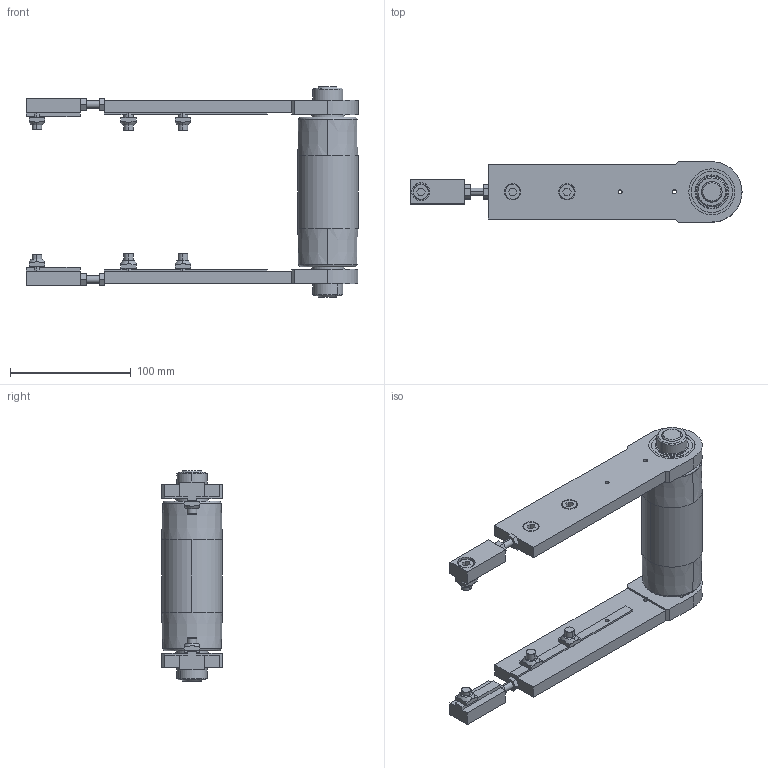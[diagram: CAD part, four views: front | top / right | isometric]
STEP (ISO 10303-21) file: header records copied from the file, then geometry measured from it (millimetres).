
FILE_DESCRIPTION (( 'STEP AP203' ), '1' );
FILE_NAME ('084.050.KIS.100.STEP', '2015-06-03T08:07:47', ( '' ), ( '' ), 'SwSTEP 2.0', 'SolidWorks 2012', '' );
FILE_SCHEMA (( 'CONFIG_CONTROL_DESIGN' ));
Length unit declared in the file: millimetre
Products named in the file (1): 084.050.KIS.100
Bounding box: 275 x 50 x 174 mm (x, y, z)
Volume: 360235.2 mm3; surface area: 171679.2 mm2
Topology: 29 solids, 31 shells, 688 faces, 1706 edges, 1108 vertices
Faces by surface type: plane 336, cylinder 216, torus 76, cone 52, sphere 8
Entity records: 21153 total; most frequent: CARTESIAN_POINT 4155, DIRECTION 3750, ORIENTED_EDGE 3368, EDGE_CURVE 1684, AXIS2_PLACEMENT_3D 1445, VERTEX_POINT 1098, LINE 860, VECTOR 860
